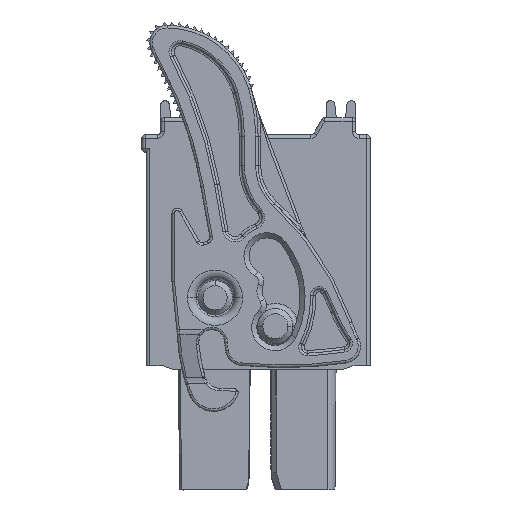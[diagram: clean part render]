
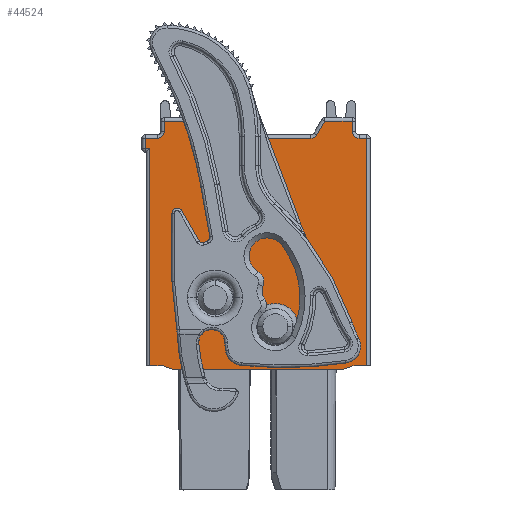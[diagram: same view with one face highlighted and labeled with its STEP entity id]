
A CAD part, left-side view. The second image highlights one B-rep face of the part: STEP entity #44524.
In plain terms, the highlighted planar face has unit normal (-1, 0, 0).
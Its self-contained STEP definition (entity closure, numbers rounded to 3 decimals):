
#31074=CARTESIAN_POINT('',(56.85,-0.999,2.5));
#31075=DIRECTION('',(-1.,0.,0.));
#31076=DIRECTION('',(0.,-1.,0.));
#31077=AXIS2_PLACEMENT_3D('',#31074,#31075,#31076);
#31079=CARTESIAN_POINT('',(56.85,-0.999,2.5));
#31080=DIRECTION('',(-1.,0.,0.));
#31081=DIRECTION('',(0.,1.,0.));
#31082=AXIS2_PLACEMENT_3D('',#31079,#31080,#31081);
#31084=CARTESIAN_POINT('',(56.85,2.501,4.15));
#31085=DIRECTION('',(-1.,0.,0.));
#31086=DIRECTION('',(0.,0.,1.));
#31087=AXIS2_PLACEMENT_3D('',#31084,#31085,#31086);
#31089=CARTESIAN_POINT('',(56.85,2.501,4.15));
#31090=DIRECTION('',(-1.,0.,0.));
#31091=DIRECTION('',(0.,0.,-1.));
#31092=AXIS2_PLACEMENT_3D('',#31089,#31090,#31091);
#31094=DIRECTION('',(0.,0.,1.));
#31095=VECTOR('',#31094,12.599);
#31096=CARTESIAN_POINT('',(56.85,6.299,0.2));
#31097=LINE('',#31096,#31095);
#31098=DIRECTION('',(0.,0.,-1.));
#31099=VECTOR('',#31098,0.6);
#31100=CARTESIAN_POINT('',(56.85,6.549,13.399));
#31101=LINE('',#31100,#31099);
#31102=DIRECTION('',(0.,1.,0.));
#31103=VECTOR('',#31102,0.7);
#31104=CARTESIAN_POINT('',(56.85,5.849,13.399));
#31105=LINE('',#31104,#31103);
#31106=CARTESIAN_POINT('',(56.85,5.849,13.799));
#31107=DIRECTION('',(1.,0.,0.));
#31108=DIRECTION('',(0.,-1.,0.));
#31109=AXIS2_PLACEMENT_3D('',#31106,#31107,#31108);
#31111=DIRECTION('',(0.,0.,
-1.));
#31112=VECTOR('',#31111,0.6);
#31113=CARTESIAN_POINT('',(56.85,5.449,14.399));
#31114=LINE('',#31113,#31112);
#31115=DIRECTION('',(0.,1.,0.));
#31116=VECTOR('',#31115,1.584);
#31117=CARTESIAN_POINT('',(56.85,3.865,14.399));
#31118=LINE('',#31117,#31116);
#31119=DIRECTION('',(0.,0.5,0.866));
#31120=VECTOR('',#31119,0.924);
#31121=CARTESIAN_POINT('',(56.85,3.403,13.599));
#31122=LINE('',#31121,#31120);
#31123=CARTESIAN_POINT('',(56.85,3.057,13.799));
#31124=DIRECTION('',(1.,0.,0.));
#31125=DIRECTION('',(0.,0.,-1.));
#31126=AXIS2_PLACEMENT_3D('',#31123,#31124,#31125);
#31128=DIRECTION('',(0.,1.,0.));
#31129=VECTOR('',#31128,6.114);
#31130=CARTESIAN_POINT('',(56.85,-3.057,13.399));
#31131=LINE('',#31130,#31129);
#31132=CARTESIAN_POINT('',(56.85,-3.057,13.799));
#31133=DIRECTION('',(1.,0.,0.));
#31134=DIRECTION('',(0.,-0.866,-0.5));
#31135=AXIS2_PLACEMENT_3D('',#31132,#31133,#31134);
#31137=DIRECTION('',(0.,0.5,-0.866));
#31138=VECTOR('',#31137,0.924);
#31139=CARTESIAN_POINT('',(56.85,-3.865,
14.399));
#31140=LINE('',#31139,#31138);
#31141=DIRECTION('',(0.,1.,0.));
#31142=VECTOR('',#31141,1.584);
#31143=CARTESIAN_POINT('',(56.85,-5.449,
14.399));
#31144=LINE('',#31143,#31142);
#31145=DIRECTION('',(0.,0.,1.));
#31146=VECTOR('',#31145,0.6);
#31147=CARTESIAN_POINT('',(56.85,-5.449,13.799));
#31148=LINE('',#31147,#31146);
#31149=CARTESIAN_POINT('',(56.85,-5.849,13.799));
#31150=DIRECTION('',(1.,0.,0.));
#31151=DIRECTION('',(0.,0.,-1.));
#31152=AXIS2_PLACEMENT_3D('',#31149,#31150,#31151);
#31154=DIRECTION('',(0.,1.,0.));
#31155=VECTOR('',#31154,0.45);
#31156=CARTESIAN_POINT('',(56.85,-6.299,
13.399));
#31157=LINE('',#31156,#31155);
#31158=DIRECTION('',(0.,0.,1.));
#31159=VECTOR('',#31158,13.199);
#31160=CARTESIAN_POINT('',(56.85,-6.299,0.2));
#31161=LINE('',#31160,#31159);
#31162=DIRECTION('',(0.,0.94,-0.342));
#31163=VECTOR('',#31162,0.585);
#31164=CARTESIAN_POINT('',(56.85,-5.499,0.2));
#31165=LINE('',#31164,#31163);
#31166=DIRECTION('',(0.,1.,0.));
#31167=VECTOR('',#31166,9.9);
#31168=CARTESIAN_POINT('',(56.85,-4.95,0.));
#31169=LINE('',#31168,#31167);
#31170=DIRECTION('',(0.,-0.94,-0.342));
#31171=VECTOR('',#31170,0.585);
#31172=CARTESIAN_POINT('',(56.85,5.499,0.2));
#31173=LINE('',#31172,#31171);
#31367=DIRECTION('',(0.,1.,0.));
#31368=VECTOR('',#31367,0.8);
#31369=CARTESIAN_POINT('',(56.85,5.499,0.2));
#31370=LINE('',#31369,#31368);
#33198=DIRECTION('',(0.,1.,0.));
#33199=VECTOR('',#33198,0.8);
#33200=CARTESIAN_POINT('',(56.85,-6.299,0.2));
#33201=LINE('',#33200,#33199);
#39129=DIRECTION('',(0.,-1.,0.));
#39130=VECTOR('',#39129,0.25);
#39131=CARTESIAN_POINT('',(56.85,6.549,12.799));
#39132=LINE('',#39131,#39130);
#40857=CARTESIAN_POINT('',(56.85,4.95,0.));
#40859=VERTEX_POINT('',#40857);
#40962=CARTESIAN_POINT('',(56.85,5.499,0.2));
#40963=VERTEX_POINT('',#40962);
#42802=CARTESIAN_POINT('',(56.85,-5.499,0.2));
#42803=VERTEX_POINT('',#42802);
#43084=CARTESIAN_POINT('',(56.85,-4.95,0.));
#43085=VERTEX_POINT('',#43084);
#43120=CARTESIAN_POINT('',(56.85,-2.324,2.5));
#43121=CARTESIAN_POINT('',(56.85,0.326,2.5));
#43122=VERTEX_POINT('',#43120);
#43123=VERTEX_POINT('',#43121);
#43128=CARTESIAN_POINT('',(56.85,2.501,5.475));
#43129=CARTESIAN_POINT('',(56.85,2.501,2.825));
#43130=VERTEX_POINT('',#43128);
#43131=VERTEX_POINT('',#43129);
#43172=CARTESIAN_POINT('',(56.85,6.549,13.399));
#43173=CARTESIAN_POINT('',(56.85,6.549,12.799));
#43174=VERTEX_POINT('',#43172);
#43175=VERTEX_POINT('',#43173);
#43180=CARTESIAN_POINT('',(56.85,5.849,13.399));
#43181=VERTEX_POINT('',#43180);
#43184=CARTESIAN_POINT('',(56.85,5.449,13.799));
#43185=VERTEX_POINT('',#43184);
#43188=CARTESIAN_POINT('',(56.85,5.449,14.399));
#43189=VERTEX_POINT('',#43188);
#43194=CARTESIAN_POINT('',(56.85,3.865,14.399));
#43195=VERTEX_POINT('',#43194);
#43200=CARTESIAN_POINT('',(56.85,3.403,13.599));
#43201=VERTEX_POINT('',#43200);
#43204=CARTESIAN_POINT('',(56.85,3.057,13.399));
#43205=VERTEX_POINT('',#43204);
#43208=CARTESIAN_POINT('',(56.85,-3.057,13.399));
#43209=VERTEX_POINT('',#43208);
#43212=CARTESIAN_POINT('',(56.85,-3.403,13.599));
#43213=VERTEX_POINT('',#43212);
#43216=CARTESIAN_POINT('',(56.85,-3.865,
14.399));
#43217=VERTEX_POINT('',#43216);
#43222=CARTESIAN_POINT('',(56.85,-5.449,
14.399));
#43223=VERTEX_POINT('',#43222);
#43228=CARTESIAN_POINT('',(56.85,-5.449,13.799));
#43229=VERTEX_POINT('',#43228);
#43232=CARTESIAN_POINT('',(56.85,-5.849,13.399));
#43233=VERTEX_POINT('',#43232);
#43236=CARTESIAN_POINT('',(56.85,-6.299,
13.399));
#43237=VERTEX_POINT('',#43236);
#43243=CARTESIAN_POINT('',(56.85,-6.299,0.2));
#43245=VERTEX_POINT('',#43243);
#43332=CARTESIAN_POINT('',(56.85,6.299,0.2));
#43333=CARTESIAN_POINT('',(56.85,6.299,12.799));
#43334=VERTEX_POINT('',#43332);
#43335=VERTEX_POINT('',#43333);
#44462=CARTESIAN_POINT('',(56.85,3.057,13.799));
#44463=DIRECTION('',(1.,0.,0.));
#44464=DIRECTION('',(0.,1.,0.));
#44465=AXIS2_PLACEMENT_3D('',#44462,#44463,#44464);
#44466=PLANE('',#44465);
#44468=ORIENTED_EDGE('',*,*,#44467,.T.);
#44470=ORIENTED_EDGE('',*,*,#44469,.F.);
#44472=ORIENTED_EDGE('',*,*,#44471,.F.);
#44473=ORIENTED_EDGE('',*,*,#44452,.F.);
#44475=ORIENTED_EDGE('',*,*,#44474,.F.);
#44477=ORIENTED_EDGE('',*,*,#44476,.F.);
#44479=ORIENTED_EDGE('',*,*,#44478,.F.);
#44481=ORIENTED_EDGE('',*,*,#44480,.F.);
#44483=ORIENTED_EDGE('',*,*,#44482,.F.);
#44485=ORIENTED_EDGE('',*,*,#44484,.F.);
#44487=ORIENTED_EDGE('',*,*,#44486,.F.);
#44489=ORIENTED_EDGE('',*,*,#44488,.F.);
#44491=ORIENTED_EDGE('',*,*,#44490,.F.);
#44493=ORIENTED_EDGE('',*,*,#44492,.F.);
#44495=ORIENTED_EDGE('',*,*,#44494,.F.);
#44497=ORIENTED_EDGE('',*,*,#44496,.F.);
#44499=ORIENTED_EDGE('',*,*,#44498,.F.);
#44501=ORIENTED_EDGE('',*,*,#44500,.T.);
#44503=ORIENTED_EDGE('',*,*,#44502,.T.);
#44505=ORIENTED_EDGE('',*,*,#44504,.T.);
#44507=ORIENTED_EDGE('',*,*,#44506,.F.);
#44509=ORIENTED_EDGE('',*,*,#44508,.T.);
#44510=EDGE_LOOP('',(#44468,#44470,#44472,#44473,#44475,#44477,#44479,#44481,
#44483,#44485,#44487,#44489,#44491,#44493,#44495,#44497,#44499,#44501,#44503,
#44505,#44507,#44509));
#44511=FACE_OUTER_BOUND('',#44510,.F.);
#44513=ORIENTED_EDGE('',*,*,#44512,.T.);
#44515=ORIENTED_EDGE('',*,*,#44514,.T.);
#44516=EDGE_LOOP('',(#44513,#44515));
#44517=FACE_BOUND('',#44516,.F.);
#44519=ORIENTED_EDGE('',*,*,#44518,.T.);
#44521=ORIENTED_EDGE('',*,*,#44520,.T.);
#44522=EDGE_LOOP('',(#44519,#44521));
#44523=FACE_BOUND('',#44522,.F.);
#44524=ADVANCED_FACE('',(#44511,#44517,#44523),#44466,.F.);
#31078=CIRCLE('',#31077,1.325);
#31083=CIRCLE('',#31082,1.325);
#31088=CIRCLE('',#31087,1.325);
#31093=CIRCLE('',#31092,1.325);
#31110=CIRCLE('',#31109,0.4);
#31127=CIRCLE('',#31126,0.4);
#31136=CIRCLE('',#31135,0.4);
#31153=CIRCLE('',#31152,0.4);
#44452=EDGE_CURVE('',#43181,#43174,#31105,.T.);
#44467=EDGE_CURVE('',#43334,#43335,#31097,.T.);
#44469=EDGE_CURVE('',#43175,#43335,#39132,.T.);
#44471=EDGE_CURVE('',#43174,#43175,#31101,.T.);
#44474=EDGE_CURVE('',#43185,#43181,#31110,.T.);
#44476=EDGE_CURVE('',#43189,#43185,#31114,.T.);
#44478=EDGE_CURVE('',#43195,#43189,#31118,.T.);
#44480=EDGE_CURVE('',#43201,#43195,#31122,.T.);
#44482=EDGE_CURVE('',#43205,#43201,#31127,.T.);
#44484=EDGE_CURVE('',#43209,#43205,#31131,.T.);
#44486=EDGE_CURVE('',#43213,#43209,#31136,.T.);
#44488=EDGE_CURVE('',#43217,#43213,#31140,.T.);
#44490=EDGE_CURVE('',#43223,#43217,#31144,.T.);
#44492=EDGE_CURVE('',#43229,#43223,#31148,.T.);
#44494=EDGE_CURVE('',#43233,#43229,#31153,.T.);
#44496=EDGE_CURVE('',#43237,#43233,#31157,.T.);
#44498=EDGE_CURVE('',#43245,#43237,#31161,.T.);
#44500=EDGE_CURVE('',#43245,#42803,#33201,.T.);
#44502=EDGE_CURVE('',#42803,#43085,#31165,.T.);
#44504=EDGE_CURVE('',#43085,#40859,#31169,.T.);
#44506=EDGE_CURVE('',#40963,#40859,#31173,.T.);
#44508=EDGE_CURVE('',#40963,#43334,#31370,.T.);
#44512=EDGE_CURVE('',#43130,#43131,#31088,.T.);
#44514=EDGE_CURVE('',#43131,#43130,#31093,.T.);
#44518=EDGE_CURVE('',#43122,#43123,#31078,.T.);
#44520=EDGE_CURVE('',#43123,#43122,#31083,.T.);
